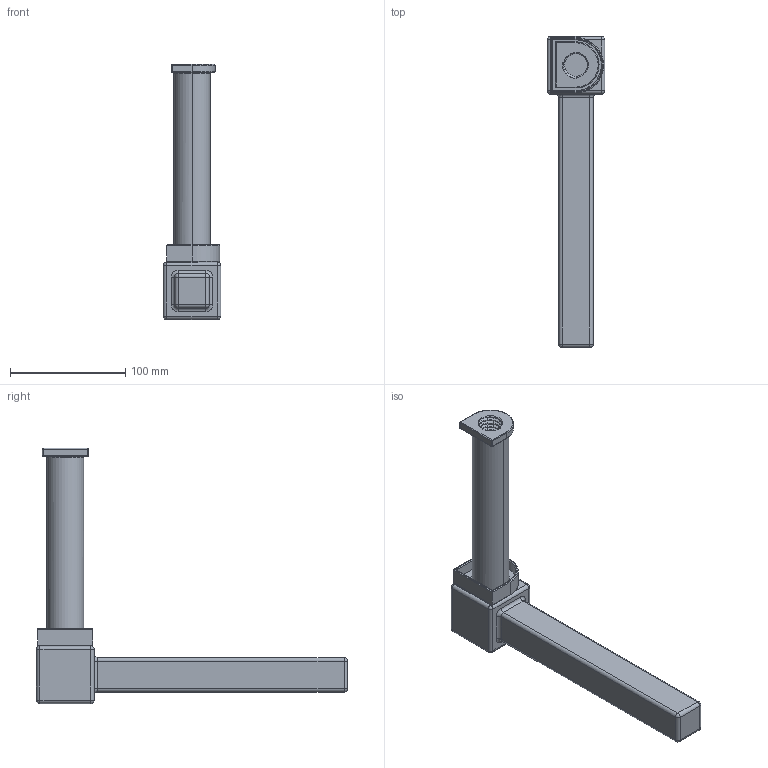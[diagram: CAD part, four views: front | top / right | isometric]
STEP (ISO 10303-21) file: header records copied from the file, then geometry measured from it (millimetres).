
FILE_DESCRIPTION(('CATIA V5 STEP Exchange'),'2;1');
FILE_NAME('C:\Users\Administrator\Desktop\프로젝트\Gripper\Assy-Gripper-act.stp','2024-09-23T03:20:00+00:00',('none'),('none'),'CATIA Unofficial Packaging Version','3DEXPERIENCE Platform STEP AP203 v1','none');
FILE_SCHEMA(('CONFIG_CONTROL_DESIGN'));
Products named in the file (2): Assy-Gripper; All Assembly
Assembly tree (4 placements, depth 3):
  Assy-Gripper
    All Assembly
      #65
      #891
    #53267
Bounding box: 50 x 270 x 221.61 mm (x, y, z)
Volume: 427769.1 mm3; surface area: 88715.5 mm2
Topology: 3 solids, 3 shells, 1998 faces, 4525 edges, 2515 vertices
Faces by surface type: bspline 1750, cylinder 157, torus 36, plane 35, sphere 20
Entity records: 48681 total; most frequent: CARTESIAN_POINT 24696, ORIENTED_EDGE 9010, EDGE_CURVE 4505, VERTEX_POINT 2515, EDGE_LOOP 2004, ADVANCED_FACE 1998, FACE_OUTER_BOUND 1998, DIRECTION 701
